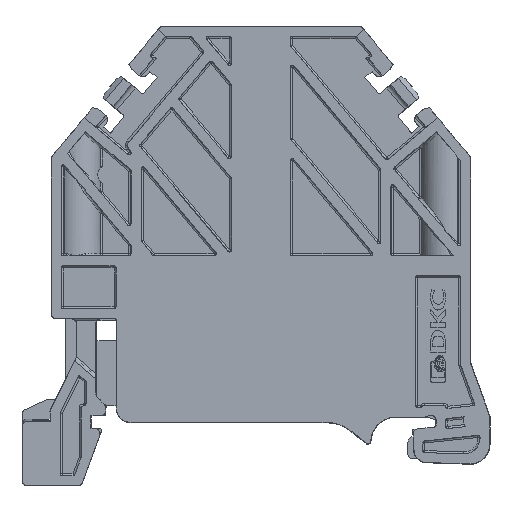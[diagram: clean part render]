
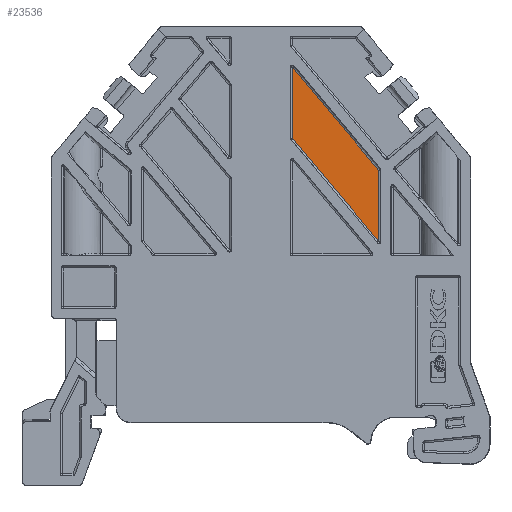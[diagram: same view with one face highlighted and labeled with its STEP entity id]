
A CAD part, top view. The second image highlights one B-rep face of the part: STEP entity #23536.
In plain terms, the highlighted planar face has unit normal (0, 0, 1).
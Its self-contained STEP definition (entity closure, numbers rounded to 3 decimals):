
#55 = ORIENTED_EDGE ( 'NONE', *, *, #6399, .T. ) ;
#1878 = CARTESIAN_POINT ( 'NONE',  ( 1.477, 27.862, 0.5 ) ) ;
#3127 = VERTEX_POINT ( 'NONE', #41309 ) ;
#6399 = EDGE_CURVE ( 'NONE', #3127, #34742, #46387, .T. ) ;
#8493 = CARTESIAN_POINT ( 'NONE',  ( 8.58, 27.859, 0.5 ) ) ;
#10126 = DIRECTION ( 'NONE',  ( 0., 0., -1. ) ) ;
#13788 = CARTESIAN_POINT ( 'NONE',  ( 11.745, 36.477, 0.5 ) ) ;
#14885 = CARTESIAN_POINT ( 'NONE',  ( 18.852, 36.477, 0.5 ) ) ;
#15278 = PLANE ( 'NONE',  #27770 ) ;
#15680 = ORIENTED_EDGE ( 'NONE', *, *, #25799, .T. ) ;
#19712 = LINE ( 'NONE', #8493, #29876 ) ;
#23536 = ADVANCED_FACE ( 'NONE', ( #38317 ), #15278, .F. ) ;
#24306 = EDGE_LOOP ( 'NONE', ( #55, #15680, #56651, #26178 ) ) ;
#25202 = LINE ( 'NONE', #1878, #56311 ) ;
#25799 = EDGE_CURVE ( 'NONE', #34742, #54701, #55956, .T. ) ;
#26155 = CARTESIAN_POINT ( 'NONE',  ( 11.744, 36.477, 0.5 ) ) ;
#26178 = ORIENTED_EDGE ( 'NONE', *, *, #41266, .T. ) ;
#27770 = AXIS2_PLACEMENT_3D ( 'NONE', #28918, #10126, #52299 ) ;
#28918 = CARTESIAN_POINT ( 'NONE',  ( 23., 39.643, 0.5 ) ) ;
#28986 = CARTESIAN_POINT ( 'NONE',  ( 1.473, 27.859, 0.5 ) ) ;
#29876 = VECTOR ( 'NONE', #58872, 1000. ) ;
#33710 = DIRECTION ( 'NONE',  ( -0.766, -0.643, 0. ) ) ;
#34742 = VERTEX_POINT ( 'NONE', #14885 ) ;
#38317 = FACE_OUTER_BOUND ( 'NONE', #24306, .T. ) ;
#40535 = VERTEX_POINT ( 'NONE', #28986 ) ;
#41266 = EDGE_CURVE ( 'NONE', #40535, #3127, #19712, .T. ) ;
#41309 = CARTESIAN_POINT ( 'NONE',  ( 8.58, 27.859, 0.5 ) ) ;
#41981 = DIRECTION ( 'NONE',  ( -1., 0., 0. ) ) ;
#42137 = DIRECTION ( 'NONE',  ( 0.766, 0.643, 0. ) ) ;
#46387 = LINE ( 'NONE', #51549, #52470 ) ;
#46424 = VECTOR ( 'NONE', #41981, 1000. ) ;
#51549 = CARTESIAN_POINT ( 'NONE',  ( 18.848, 36.474, 0.5 ) ) ;
#51632 = EDGE_CURVE ( 'NONE', #54701, #40535, #25202, .T. ) ;
#52299 = DIRECTION ( 'NONE',  ( -1., 0., 0. ) ) ;
#52470 = VECTOR ( 'NONE', #42137, 1000. ) ;
#54701 = VERTEX_POINT ( 'NONE', #26155 ) ;
#55956 = LINE ( 'NONE', #13788, #46424 ) ;
#56311 = VECTOR ( 'NONE', #33710, 1000. ) ;
#56651 = ORIENTED_EDGE ( 'NONE', *, *, #51632, .T. ) ;
#58872 = DIRECTION ( 'NONE',  ( 1., 0., 0. ) ) ;
